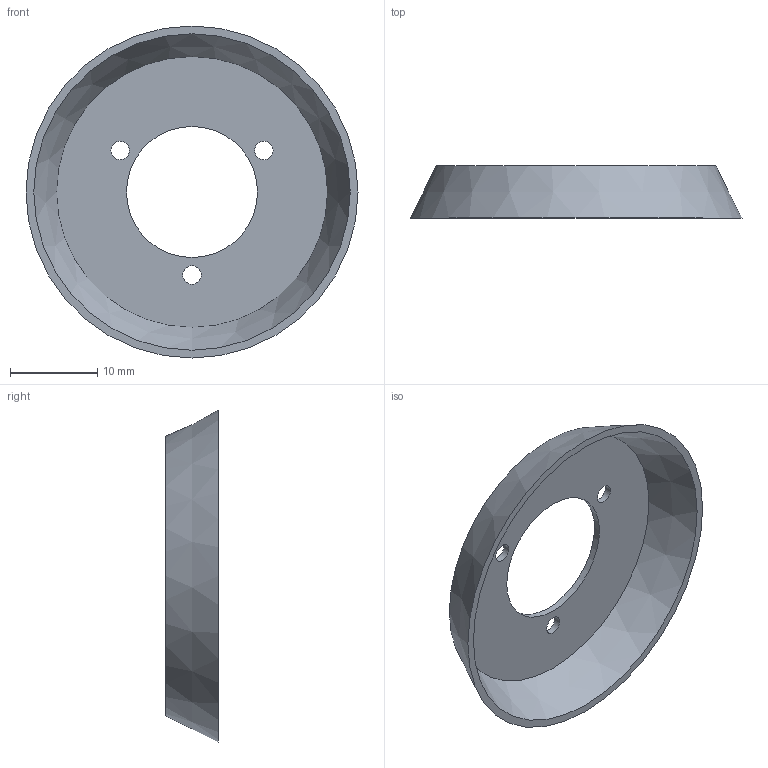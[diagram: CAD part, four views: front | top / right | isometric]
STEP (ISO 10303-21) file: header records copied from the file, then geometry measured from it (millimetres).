
FILE_DESCRIPTION( ( 'STEP AP203' ), '1' );
FILE_NAME( 'C:/Temp/Ganter_Step_05_03_2020/data/1_4/gn_526_1/gn_526_1_b/Scale ring GN 526.1-38-B.stp', '2020-03-05T10:48:53', ( 'License CC BY-ND 4.0' ), ( 'CADENAS' ), ' ', 'PARTsolutions', ' ' );
FILE_SCHEMA( ( 'CONFIG_CONTROL_DESIGN' ) );
Length unit declared in the file: millimetre
Products named in the file (1): _Scale ring GN 526.1-38-B
Bounding box: 38 x 6 x 38 mm (x, y, z)
Volume: 1014.1 mm3; surface area: 2694.6 mm2
Topology: 1 solids, 1 shells, 9 faces, 21 edges, 15 vertices
Faces by surface type: cylinder 4, plane 3, cone 2
Full cylindrical faces by diameter (mm): 2.1 x3, 15 x1
Entity records: 274 total; most frequent: DIRECTION 44, CARTESIAN_POINT 34, EDGE_LOOP 24, ORIENTED_EDGE 24, AXIS2_PLACEMENT_3D 22, FACE_OUTER_BOUND 13, EDGE_CURVE 12, VERTEX_POINT 12
